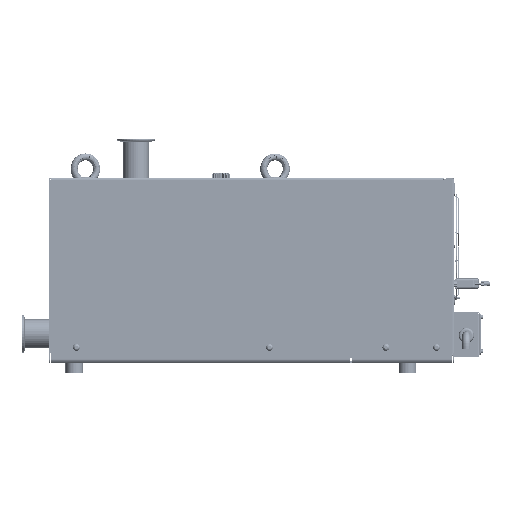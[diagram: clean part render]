
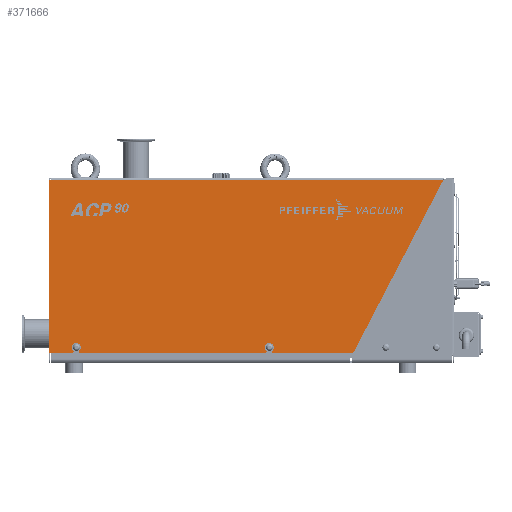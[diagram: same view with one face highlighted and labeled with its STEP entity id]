
A CAD part, front view. The second image highlights one B-rep face of the part: STEP entity #371666.
In plain terms, the highlighted planar face has unit normal (0, -1, 0).
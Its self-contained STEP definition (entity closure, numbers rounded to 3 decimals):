
#358869=DIRECTION('',(1.,0.,0.));
#358870=VECTOR('',#358869,573.238);
#358871=CARTESIAN_POINT('',(-285.838,-156.,3.));
#358872=LINE('',#358871,#358870);
#358885=CARTESIAN_POINT('',(-153.788,-156.,254.5));
#358886=DIRECTION('',(0.,-1.,0.));
#358887=DIRECTION('',(0.,0.,1.));
#358888=AXIS2_PLACEMENT_3D('',#358885,#358886,#358887);
#358890=DIRECTION('',(-1.,0.,0.));
#358891=VECTOR('',#358890,117.188);
#358892=CARTESIAN_POINT('',(-36.6,-156.,255.5));
#358893=LINE('',#358892,#358891);
#358894=CARTESIAN_POINT('',(-36.6,-156.,254.5));
#358895=DIRECTION('',(0.,-1.,0.));
#358896=DIRECTION('',(1.,0.,0.));
#358897=AXIS2_PLACEMENT_3D('',#358894,#358895,#358896);
#358899=DIRECTION('',(0.,0.,-1.));
#358900=VECTOR('',#358899,7.);
#358901=CARTESIAN_POINT('',(-35.6,-156.,254.5));
#358902=LINE('',#358901,#358900);
#358903=CARTESIAN_POINT('',(-31.6,-156.,247.5));
#358904=DIRECTION('',(0.,-1.,0.));
#358905=DIRECTION('',(-1.,0.,0.));
#358906=AXIS2_PLACEMENT_3D('',#358903,#358904,#358905);
#358908=DIRECTION('',(0.,0.,-1.));
#358909=VECTOR('',#358908,7.);
#358910=CARTESIAN_POINT('',(-27.6,-156.,254.5));
#358911=LINE('',#358910,#358909);
#358912=CARTESIAN_POINT('',(-26.6,-156.,254.5));
#358913=DIRECTION('',(0.,-1.,0.));
#358914=DIRECTION('',(0.,0.,1.));
#358915=AXIS2_PLACEMENT_3D('',#358912,#358913,#358914);
#358917=DIRECTION('',(-1.,0.,0.));
#358918=VECTOR('',#358917,272.);
#358919=CARTESIAN_POINT('',(245.4,-156.,255.5));
#358920=LINE('',#358919,#358918);
#358921=CARTESIAN_POINT('',(245.4,-156.,254.5));
#358922=DIRECTION('',(0.,-1.,0.));
#358923=DIRECTION('',(1.,0.,0.));
#358924=AXIS2_PLACEMENT_3D('',#358921,#358922,#358923);
#358926=DIRECTION('',(0.,0.,-1.));
#358927=VECTOR('',#358926,7.);
#358928=CARTESIAN_POINT('',(246.4,-156.,254.5));
#358929=LINE('',#358928,#358927);
#358930=CARTESIAN_POINT('',(250.4,-156.,247.5));
#358931=DIRECTION('',(0.,-1.,0.));
#358932=DIRECTION('',(-1.,0.,0.));
#358933=AXIS2_PLACEMENT_3D('',#358930,#358931,#358932);
#358935=DIRECTION('',(0.,0.,-1.));
#358936=VECTOR('',#358935,7.);
#358937=CARTESIAN_POINT('',(254.4,-156.,254.5));
#358938=LINE('',#358937,#358936);
#358939=CARTESIAN_POINT('',(255.4,-156.,254.5));
#358940=DIRECTION('',(0.,-1.,0.));
#358941=DIRECTION('',(0.,0.,1.));
#358942=AXIS2_PLACEMENT_3D('',#358939,#358940,#358941);
#358944=DIRECTION('',(-1.,0.,0.));
#358945=VECTOR('',#358944,35.);
#358946=CARTESIAN_POINT('',(290.4,-156.,255.5));
#358947=LINE('',#358946,#358945);
#358948=DIRECTION('',(0.,0.,1.));
#358949=VECTOR('',#358948,252.5);
#358950=CARTESIAN_POINT('',(290.4,-156.,3.));
#358951=LINE('',#358950,#358949);
#358952=DIRECTION('',(-1.,0.,0.));
#358953=VECTOR('',#358952,3.);
#358954=CARTESIAN_POINT('',(290.4,-156.,3.));
#358955=LINE('',#358954,#358953);
#358956=DIRECTION('',(-0.462,0.,-0.887));
#358957=VECTOR('',#358956,284.057);
#358958=CARTESIAN_POINT('',(-154.675,-156.,254.962));
#358959=LINE('',#358958,#358957);
#368190=CARTESIAN_POINT('',(290.4,-156.,255.5));
#368192=VERTEX_POINT('',#368190);
#368194=CARTESIAN_POINT('',(-285.838,-156.,3.));
#368196=VERTEX_POINT('',#368194);
#368226=CARTESIAN_POINT('',(246.4,-156.,247.5));
#368227=CARTESIAN_POINT('',(254.4,-156.,247.5));
#368228=VERTEX_POINT('',#368226);
#368229=VERTEX_POINT('',#368227);
#368234=CARTESIAN_POINT('',(-35.6,-156.,247.5));
#368235=CARTESIAN_POINT('',(-27.6,-156.,247.5));
#368236=VERTEX_POINT('',#368234);
#368237=VERTEX_POINT('',#368235);
#368282=CARTESIAN_POINT('',(-153.788,-156.,255.5));
#368283=CARTESIAN_POINT('',(-154.675,-156.,254.962));
#368284=VERTEX_POINT('',#368282);
#368285=VERTEX_POINT('',#368283);
#368298=CARTESIAN_POINT('',(-36.6,-156.,255.5));
#368299=VERTEX_POINT('',#368298);
#368330=CARTESIAN_POINT('',(-35.6,-156.,254.5));
#368331=VERTEX_POINT('',#368330);
#368334=CARTESIAN_POINT('',(-26.6,-156.,255.5));
#368335=CARTESIAN_POINT('',(-27.6,-156.,254.5));
#368336=VERTEX_POINT('',#368334);
#368337=VERTEX_POINT('',#368335);
#368342=CARTESIAN_POINT('',(246.4,-156.,254.5));
#368343=CARTESIAN_POINT('',(245.4,-156.,255.5));
#368344=VERTEX_POINT('',#368342);
#368345=VERTEX_POINT('',#368343);
#368350=CARTESIAN_POINT('',(255.4,-156.,255.5));
#368351=CARTESIAN_POINT('',(254.4,-156.,254.5));
#368352=VERTEX_POINT('',#368350);
#368353=VERTEX_POINT('',#368351);
#371110=CARTESIAN_POINT('',(290.4,-156.,3.));
#371111=CARTESIAN_POINT('',(287.4,-156.,3.));
#371112=VERTEX_POINT('',#371110);
#371113=VERTEX_POINT('',#371111);
#371624=CARTESIAN_POINT('',(-150.828,-156.,0.));
#371625=DIRECTION('',(0.,-1.,0.));
#371626=DIRECTION('',(1.,0.,0.));
#371627=AXIS2_PLACEMENT_3D('',#371624,#371625,#371626);
#371628=PLANE('',#371627);
#371630=ORIENTED_EDGE('',*,*,#371629,.F.);
#371632=ORIENTED_EDGE('',*,*,#371631,.F.);
#371634=ORIENTED_EDGE('',*,*,#371633,.F.);
#371636=ORIENTED_EDGE('',*,*,#371635,.T.);
#371638=ORIENTED_EDGE('',*,*,#371637,.T.);
#371640=ORIENTED_EDGE('',*,*,#371639,.F.);
#371642=ORIENTED_EDGE('',*,*,#371641,.F.);
#371644=ORIENTED_EDGE('',*,*,#371643,.F.);
#371646=ORIENTED_EDGE('',*,*,#371645,.F.);
#371648=ORIENTED_EDGE('',*,*,#371647,.T.);
#371650=ORIENTED_EDGE('',*,*,#371649,.T.);
#371652=ORIENTED_EDGE('',*,*,#371651,.F.);
#371654=ORIENTED_EDGE('',*,*,#371653,.F.);
#371656=ORIENTED_EDGE('',*,*,#371655,.F.);
#371658=ORIENTED_EDGE('',*,*,#371657,.F.);
#371660=ORIENTED_EDGE('',*,*,#371659,.T.);
#371661=ORIENTED_EDGE('',*,*,#371615,.F.);
#371663=ORIENTED_EDGE('',*,*,#371662,.F.);
#371664=EDGE_LOOP('',(#371630,#371632,#371634,#371636,#371638,#371640,#371642,
#371644,#371646,#371648,#371650,#371652,#371654,#371656,#371658,#371660,#371661,
#371663));
#371665=FACE_OUTER_BOUND('',#371664,.F.);
#371666=ADVANCED_FACE('',(#371665),#371628,.T.);
#358889=CIRCLE('',#358888,1.);
#358898=CIRCLE('',#358897,1.);
#358907=CIRCLE('',#358906,4.);
#358916=CIRCLE('',#358915,1.);
#358925=CIRCLE('',#358924,1.);
#358934=CIRCLE('',#358933,4.);
#358943=CIRCLE('',#358942,1.);
#371615=EDGE_CURVE('',#368196,#371113,#358872,.T.);
#371629=EDGE_CURVE('',#368284,#368285,#358889,.T.);
#371631=EDGE_CURVE('',#368299,#368284,#358893,.T.);
#371633=EDGE_CURVE('',#368331,#368299,#358898,.T.);
#371635=EDGE_CURVE('',#368331,#368236,#358902,.T.);
#371637=EDGE_CURVE('',#368236,#368237,#358907,.T.);
#371639=EDGE_CURVE('',#368337,#368237,#358911,.T.);
#371641=EDGE_CURVE('',#368336,#368337,#358916,.T.);
#371643=EDGE_CURVE('',#368345,#368336,#358920,.T.);
#371645=EDGE_CURVE('',#368344,#368345,#358925,.T.);
#371647=EDGE_CURVE('',#368344,#368228,#358929,.T.);
#371649=EDGE_CURVE('',#368228,#368229,#358934,.T.);
#371651=EDGE_CURVE('',#368353,#368229,#358938,.T.);
#371653=EDGE_CURVE('',#368352,#368353,#358943,.T.);
#371655=EDGE_CURVE('',#368192,#368352,#358947,.T.);
#371657=EDGE_CURVE('',#371112,#368192,#358951,.T.);
#371659=EDGE_CURVE('',#371112,#371113,#358955,.T.);
#371662=EDGE_CURVE('',#368285,#368196,#358959,.T.);
